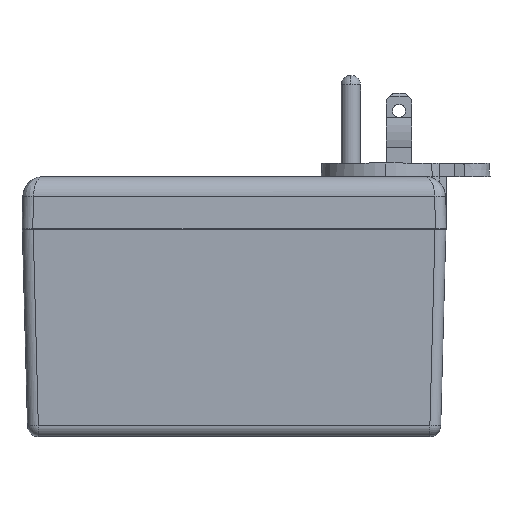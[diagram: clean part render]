
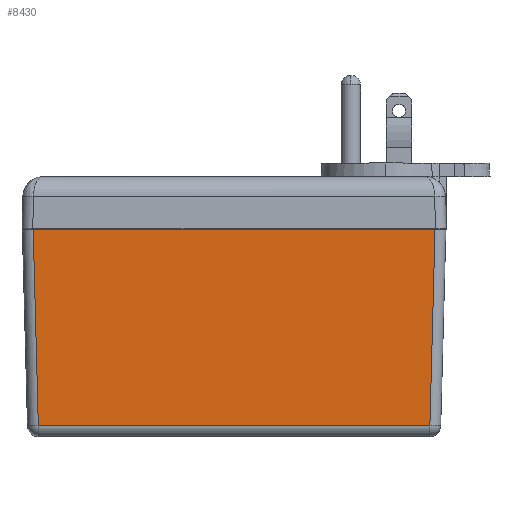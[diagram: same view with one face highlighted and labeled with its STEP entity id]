
A CAD part, top view. The second image highlights one B-rep face of the part: STEP entity #8430.
In plain terms, the highlighted planar face has unit normal (0, -0.026, 1).
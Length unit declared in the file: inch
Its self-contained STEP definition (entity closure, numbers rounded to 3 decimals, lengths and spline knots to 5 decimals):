
#1097 = CARTESIAN_POINT ( 'NONE',  ( -1.94954, 0., 1.116 ) ) ;
#1100 = CARTESIAN_POINT ( 'NONE',  ( 1.94954, 0., 1.116 ) ) ;
#1145 = CARTESIAN_POINT ( 'NONE',  ( -1.89971, -1.90275, 1.06617 ) ) ;
#1152 = CARTESIAN_POINT ( 'NONE',  ( 1.89971, -1.90275, 1.06617 ) ) ;
#1947 = VERTEX_POINT ( 'NONE', #1152 ) ;
#1954 = VERTEX_POINT ( 'NONE', #1145 ) ;
#1999 = VERTEX_POINT ( 'NONE', #1100 ) ;
#2002 = VERTEX_POINT ( 'NONE', #1097 ) ;
#7033 = CARTESIAN_POINT ( 'NONE',  ( -2.0545, -1.90275, 1.06617 ) ) ;
#7039 = DIRECTION ( 'NONE',  ( 1., 0., 0. ) ) ;
#7071 = CARTESIAN_POINT ( 'NONE',  ( 1.94679, -0.10471, 1.11326 ) ) ;
#7072 = DIRECTION ( 'NONE',  ( 0.026, 0.999, 0.026 ) ) ;
#7073 = CARTESIAN_POINT ( 'NONE',  ( -1.94961, 0.00274, 1.11607 ) ) ;
#7074 = DIRECTION ( 'NONE',  ( 0.026, -0.999, -0.026 ) ) ;
#7075 = CARTESIAN_POINT ( 'NONE',  ( -2.0545, 0., 1.116 ) ) ;
#7076 = DIRECTION ( 'NONE',  ( 1., 0., 0. ) ) ;
#8430 = ADVANCED_FACE ( 'NONE', ( #19558 ), #10037, .T. ) ;
#10028 = DIRECTION ( 'NONE',  ( 0., -1., -0.026 ) ) ;
#10031 = DIRECTION ( 'NONE',  ( 0., -0.026, 1. ) ) ;
#10037 = PLANE ( 'NONE',  #17987 ) ;
#10040 = CARTESIAN_POINT ( 'NONE',  ( -2.0545, 0., 1.116 ) ) ;
#11202 = ORIENTED_EDGE ( 'NONE', *, *, #20222, .T. ) ;
#11203 = ORIENTED_EDGE ( 'NONE', *, *, #20236, .T. ) ;
#11204 = ORIENTED_EDGE ( 'NONE', *, *, #20238, .F. ) ;
#11205 = ORIENTED_EDGE ( 'NONE', *, *, #20237, .T. ) ;
#15650 = VECTOR ( 'NONE', #7076, 39.37008 ) ;
#15651 = LINE ( 'NONE', #7075, #15650 ) ;
#15652 = VECTOR ( 'NONE', #7074, 39.37008 ) ;
#15653 = LINE ( 'NONE', #7073, #15652 ) ;
#15654 = VECTOR ( 'NONE', #7072, 39.37008 ) ;
#15655 = LINE ( 'NONE', #7071, #15654 ) ;
#15679 = LINE ( 'NONE', #7033, #15682 ) ;
#15682 = VECTOR ( 'NONE', #7039, 39.37008 ) ;
#17987 = AXIS2_PLACEMENT_3D ( 'NONE', #10040, #10031, #10028 ) ;
#18128 = EDGE_LOOP ( 'NONE', ( #11202, #11203, #11204, #11205 ) ) ;
#19558 = FACE_OUTER_BOUND ( 'NONE', #18128, .T. ) ;
#20222 = EDGE_CURVE ( 'NONE', #1954, #1947, #15679, .T. ) ;
#20236 = EDGE_CURVE ( 'NONE', #1947, #1999, #15655, .T. ) ;
#20237 = EDGE_CURVE ( 'NONE', #2002, #1954, #15653, .T. ) ;
#20238 = EDGE_CURVE ( 'NONE', #2002, #1999, #15651, .T. ) ;
